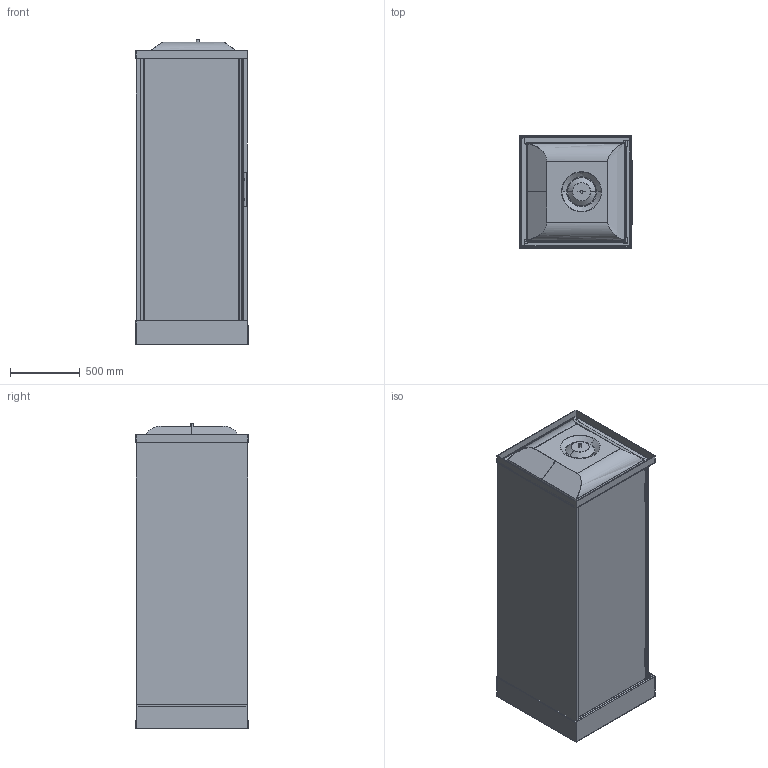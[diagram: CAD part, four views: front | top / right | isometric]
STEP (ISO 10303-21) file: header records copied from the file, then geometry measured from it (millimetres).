
FILE_DESCRIPTION(('STEP AP203'),'2;1');
FILE_NAME('NNH GF 80 T 19 F.stp','2015-09-04T15:30:13',(''),(''),'2014.1.117','THINKDESIGN','');
FILE_SCHEMA(('CONFIG_CONTROL_DESIGN'));
Length unit declared in the file: millimetre
Products named in the file (1): top
Bounding box: 807.53 x 804.03 x 2192.4 mm (x, y, z)
Volume: 178292735.2 mm3; surface area: 18397339.6 mm2
Topology: 42 solids, 42 shells, 791 faces, 1894 edges, 1200 vertices
Faces by surface type: bspline 389, plane 287, cylinder 115
Entity records: 75044 total; most frequent: CARTESIAN_POINT 59236, ORIENTED_EDGE 3754, DIRECTION 2276, EDGE_CURVE 1877, VERTEX_POINT 1200, EDGE_LOOP 825, VECTOR 818, LINE 818
